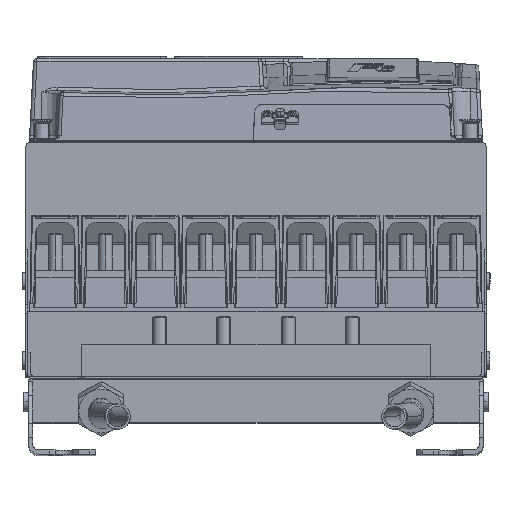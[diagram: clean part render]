
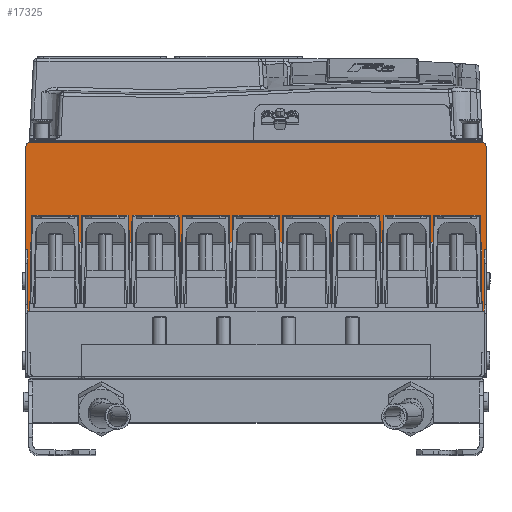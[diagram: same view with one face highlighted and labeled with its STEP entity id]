
A CAD part, top view. The second image highlights one B-rep face of the part: STEP entity #17325.
In plain terms, the highlighted planar face has unit normal (0, 0, 1).
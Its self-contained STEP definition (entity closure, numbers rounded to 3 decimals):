
#126 = LINE ( 'NONE', #97374, #96278 ) ;
#2992 = EDGE_CURVE ( 'NONE', #76630, #72517, #30335, .T. ) ;
#4387 = LINE ( 'NONE', #12346, #17857 ) ;
#4407 = EDGE_CURVE ( 'NONE', #53392, #65008, #101901, .T. ) ;
#4620 = VERTEX_POINT ( 'NONE', #7326 ) ;
#4915 = DIRECTION ( 'NONE',  ( 0., 1., 0. ) ) ;
#5591 = ORIENTED_EDGE ( 'NONE', *, *, #17638, .T. ) ;
#6254 = ORIENTED_EDGE ( 'NONE', *, *, #4407, .F. ) ;
#6655 = ORIENTED_EDGE ( 'NONE', *, *, #45173, .F. ) ;
#7326 = CARTESIAN_POINT ( 'NONE',  ( -165., -3.5, 453. ) ) ;
#10947 = AXIS2_PLACEMENT_3D ( 'NONE', #68319, #21510, #68849 ) ;
#11439 = PLANE ( 'NONE',  #10947 ) ;
#11669 = CARTESIAN_POINT ( 'NONE',  ( 165., -77., 453. ) ) ;
#12346 = CARTESIAN_POINT ( 'NONE',  ( 165., -3.5, 453. ) ) ;
#13992 = ORIENTED_EDGE ( 'NONE', *, *, #102516, .F. ) ;
#14437 = DIRECTION ( 'NONE',  ( 1., 0., 0. ) ) ;
#15117 = DIRECTION ( 'NONE',  ( 0., 1., 0. ) ) ;
#15729 = VECTOR ( 'NONE', #101047, 1000. ) ;
#15917 = VECTOR ( 'NONE', #14437, 1000. ) ;
#17325 = ADVANCED_FACE ( 'NONE', ( #69888 ), #11439, .F. ) ;
#17638 = EDGE_CURVE ( 'NONE', #74673, #65008, #4387, .T. ) ;
#17857 = VECTOR ( 'NONE', #4915, 1000. ) ;
#18271 = CARTESIAN_POINT ( 'NONE',  ( 161.5, 0., 453. ) ) ;
#19247 = EDGE_CURVE ( 'NONE', #63924, #81415, #59957, .T. ) ;
#21012 = CARTESIAN_POINT ( 'NONE',  ( -163.5, -167.9, 453. ) ) ;
#21340 = EDGE_LOOP ( 'NONE', ( #6655, #40523, #93422, #89011, #77765, #104211, #13992, #5591, #6254, #101210 ) ) ;
#21510 = DIRECTION ( 'NONE',  ( 0., 0., -1. ) ) ;
#22243 = CARTESIAN_POINT ( 'NONE',  ( 161.5, -3.5, 453. ) ) ;
#23098 = CARTESIAN_POINT ( 'NONE',  ( -161.5, -3.5, 453. ) ) ;
#29781 = CARTESIAN_POINT ( 'NONE',  ( -165., -77., 453. ) ) ;
#30335 = LINE ( 'NONE', #62748, #77900 ) ;
#34511 = DIRECTION ( 'NONE',  ( 0., -1., 0. ) ) ;
#37085 = EDGE_CURVE ( 'NONE', #70168, #72517, #83521, .T. ) ;
#38738 = DIRECTION ( 'NONE',  ( 0., 0., -1. ) ) ;
#40523 = ORIENTED_EDGE ( 'NONE', *, *, #58262, .T. ) ;
#45173 = EDGE_CURVE ( 'NONE', #4620, #74814, #71445, .T. ) ;
#46507 = VECTOR ( 'NONE', #51786, 1000. ) ;
#50203 = LINE ( 'NONE', #90121, #46507 ) ;
#51668 = CARTESIAN_POINT ( 'NONE',  ( 163.5, -77., 453. ) ) ;
#51786 = DIRECTION ( 'NONE',  ( -1., 0., 0. ) ) ;
#53392 = VERTEX_POINT ( 'NONE', #18271 ) ;
#55206 = CARTESIAN_POINT ( 'NONE',  ( -161.5, 0., 453. ) ) ;
#55513 = DIRECTION ( 'NONE',  ( 0., 0., -1. ) ) ;
#58262 = EDGE_CURVE ( 'NONE', #4620, #70168, #126, .T. ) ;
#59589 = AXIS2_PLACEMENT_3D ( 'NONE', #23098, #55513, #15117 ) ;
#59957 = LINE ( 'NONE', #75404, #72435 ) ;
#62748 = CARTESIAN_POINT ( 'NONE',  ( -163.5, 0., 453. ) ) ;
#63685 = VECTOR ( 'NONE', #98587, 1000. ) ;
#63924 = VERTEX_POINT ( 'NONE', #51668 ) ;
#65008 = VERTEX_POINT ( 'NONE', #78482 ) ;
#67726 = LINE ( 'NONE', #99114, #63685 ) ;
#68319 = CARTESIAN_POINT ( 'NONE',  ( 0., 0., 453. ) ) ;
#68849 = DIRECTION ( 'NONE',  ( 0., 1., 0. ) ) ;
#69584 = DIRECTION ( 'NONE',  ( 0., 1., 0. ) ) ;
#69888 = FACE_OUTER_BOUND ( 'NONE', #21340, .T. ) ;
#70168 = VERTEX_POINT ( 'NONE', #29781 ) ;
#71445 = CIRCLE ( 'NONE', #59589, 3.5 ) ;
#71871 = DIRECTION ( 'NONE',  ( 0., -1., 0. ) ) ;
#72435 = VECTOR ( 'NONE', #34511, 1000. ) ;
#72517 = VERTEX_POINT ( 'NONE', #81621 ) ;
#72843 = DIRECTION ( 'NONE',  ( 0., 1., 0. ) ) ;
#74673 = VERTEX_POINT ( 'NONE', #11669 ) ;
#74814 = VERTEX_POINT ( 'NONE', #55206 ) ;
#75404 = CARTESIAN_POINT ( 'NONE',  ( 163.5, 0., 453. ) ) ;
#75549 = CARTESIAN_POINT ( 'NONE',  ( -165.001, -77., 453. ) ) ;
#76630 = VERTEX_POINT ( 'NONE', #21012 ) ;
#77765 = ORIENTED_EDGE ( 'NONE', *, *, #87000, .F. ) ;
#77900 = VECTOR ( 'NONE', #72843, 1000. ) ;
#78123 = AXIS2_PLACEMENT_3D ( 'NONE', #22243, #38738, #69584 ) ;
#78482 = CARTESIAN_POINT ( 'NONE',  ( 165., -3.5, 453. ) ) ;
#81415 = VERTEX_POINT ( 'NONE', #92731 ) ;
#81621 = CARTESIAN_POINT ( 'NONE',  ( -163.5, -77., 453. ) ) ;
#83521 = LINE ( 'NONE', #75549, #15729 ) ;
#87000 = EDGE_CURVE ( 'NONE', #81415, #76630, #50203, .T. ) ;
#89011 = ORIENTED_EDGE ( 'NONE', *, *, #2992, .F. ) ;
#90121 = CARTESIAN_POINT ( 'NONE',  ( 0., -167.9, 453. ) ) ;
#92731 = CARTESIAN_POINT ( 'NONE',  ( 163.5, -167.9, 453. ) ) ;
#93422 = ORIENTED_EDGE ( 'NONE', *, *, #37085, .T. ) ;
#95775 = CARTESIAN_POINT ( 'NONE',  ( 0., 0., 453. ) ) ;
#96278 = VECTOR ( 'NONE', #71871, 1000. ) ;
#97374 = CARTESIAN_POINT ( 'NONE',  ( -165., -3.5, 453. ) ) ;
#97537 = EDGE_CURVE ( 'NONE', #74814, #53392, #101670, .T. ) ;
#98587 = DIRECTION ( 'NONE',  ( -1., 0., 0. ) ) ;
#99114 = CARTESIAN_POINT ( 'NONE',  ( 165.001, -77., 453. ) ) ;
#101047 = DIRECTION ( 'NONE',  ( 1., 0., 0. ) ) ;
#101210 = ORIENTED_EDGE ( 'NONE', *, *, #97537, .F. ) ;
#101670 = LINE ( 'NONE', #95775, #15917 ) ;
#101901 = CIRCLE ( 'NONE', #78123, 3.5 ) ;
#102516 = EDGE_CURVE ( 'NONE', #74673, #63924, #67726, .T. ) ;
#104211 = ORIENTED_EDGE ( 'NONE', *, *, #19247, .F. ) ;
